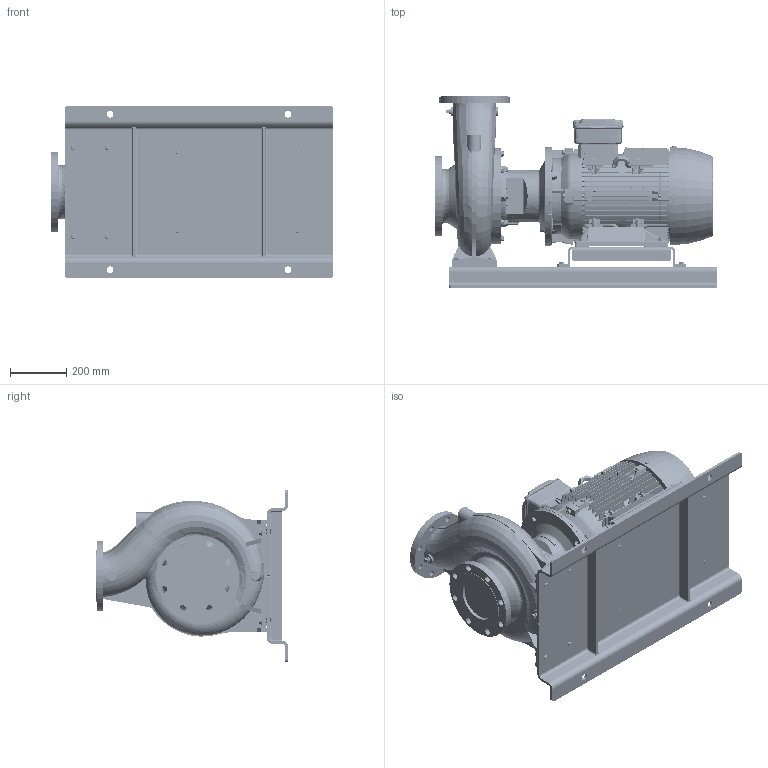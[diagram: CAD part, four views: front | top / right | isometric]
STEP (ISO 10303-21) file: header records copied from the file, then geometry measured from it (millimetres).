
FILE_DESCRIPTION (( 'STEP AP214' ), '1' );
FILE_NAME ('GSD4 125-250_18.5 & 22_(180ML)_W21_BP.STEP', '2026-05-08T04:57:35', ( '' ), ( '' ), 'SwSTEP 2.0', 'SolidWorks 2024', '' );
FILE_SCHEMA (( 'AUTOMOTIVE_DESIGN' ));
Products named in the file (13): N7S3 GSDA-735 F1-1832948-00; Parametric bolt and washer_SFT-A353B; Parametric bolt and washer_SFT-A305B; CGS11-5263; Parametric bolt and washer_SFT-A297B; 125-250-180M_L_ﾃﾞﾌｫﾙﾄ; Parametric bolt_SFT-A297B; Parametric Flat Washer_M12; Parametric bolt_SFT-A305B; Parametric Flat Washer_M16; Parametric bolt_SFT-A353B; GSD4 125-250_18.5 & 22_(180ML)_W21_BP; 180M_L ALIE3_W21T_B35
Assembly tree (22 placements, depth 3):
  GSD4 125-250_18.5 & 22_(180ML)_W21_BP
    125-250-180M_L_ﾃﾞﾌｫﾙﾄ
    N7S3 GSDA-735 F1-1832948-00
    CGS11-5263
    Parametric bolt and washer_SFT-A353B  x4
      Parametric bolt_SFT-A353B
      Parametric Flat Washer_M16
    Parametric bolt and washer_SFT-A297B  x4
      Parametric bolt_SFT-A297B
      Parametric Flat Washer_M12
    Parametric bolt and washer_SFT-A305B  x4
      Parametric bolt_SFT-A305B
      Parametric Flat Washer_M12
    180M_L ALIE3_W21T_B35
Bounding box: 1000 x 680 x 610 mm (x, y, z)
Volume: 88009699.5 mm3; surface area: 5674374.9 mm2
Topology: 60 solids, 60 shells, 6781 faces, 17588 edges, 11375 vertices
Faces by surface type: plane 3970, cylinder 1391, cone 663, bspline 462, torus 279, sphere 16
Entity records: 259908 total; most frequent: CARTESIAN_POINT 113569, ORIENTED_EDGE 32166, DIRECTION 27257, EDGE_CURVE 16083, VERTEX_POINT 10406, VECTOR 10027, LINE 10027, AXIS2_PLACEMENT_3D 8615
